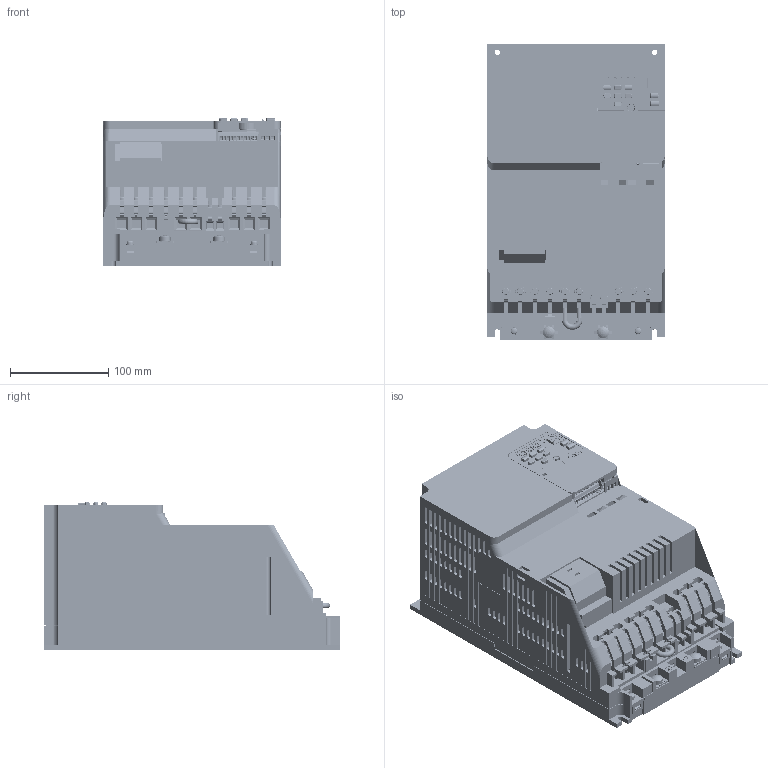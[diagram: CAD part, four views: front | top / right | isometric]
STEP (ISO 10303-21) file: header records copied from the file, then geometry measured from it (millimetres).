
FILE_DESCRIPTION((''),'2;1');
FILE_NAME('CIPR-GA50X2056AJXX_ASM','2021-05-20T',('ktc_001'),('YASKAWA ELECTRIC CORCORATION'),'PRO/ENGINEER BY PARAMETRIC TECHNOLOGY CORPORATION, 2017170','PRO/ENGINEER BY PARAMETRIC TECHNOLOGY CORPORATION, 2017170','');
FILE_SCHEMA(('AUTOMOTIVE_DESIGN { 1 0 10303 214 1 1 1 1 }'));
Products named in the file (12): CIPR-GA50_2056_STD_IP20_BODY; CIPR-GA50_ALL_TB; CIPR-GA50_KEYPAD; CIPR-GA50_USB_COVER; CIPR-GA50_COMMON_1; CIPR-GA50_COMMON_2; CIPR-GA50_COMMON_6; CIPR-GA50_FP; CIPR-GA50_TERMINAL_COVER_6; CIPR-GA50_SCREW_GND_M6X16; CIPR-GA50_SCREW_M4X12; CIPR-GA50X2056AJXX_ASM
Assembly tree (13 placements, depth 2):
  CIPR-GA50X2056AJXX_ASM
    CIPR-GA50_2056_STD_IP20_BODY
    CIPR-GA50_ALL_TB
    CIPR-GA50_KEYPAD
    CIPR-GA50_USB_COVER
    CIPR-GA50_COMMON_1
    CIPR-GA50_COMMON_2
    CIPR-GA50_COMMON_6
    CIPR-GA50_FP
    CIPR-GA50_TERMINAL_COVER_6
    CIPR-GA50_SCREW_GND_M6X16  x2
    CIPR-GA50_SCREW_M4X12  x2
Bounding box: 180 x 300 x 149.75 mm (x, y, z)
Volume: 5640907.8 mm3; surface area: 450915.4 mm2
Topology: 17 solids, 19 shells, 8453 faces, 22839 edges, 15004 vertices
Faces by surface type: plane 6319, cylinder 1963, torus 70, cone 51, bspline 34, sphere 16
Entity records: 324043 total; most frequent: CARTESIAN_POINT 50705, ORIENTED_EDGE 45138, DIRECTION 42641, EDGE_CURVE 22569, VECTOR 17777, LINE 17777, VERTEX_POINT 14848, AXIS2_PLACEMENT_3D 12432
